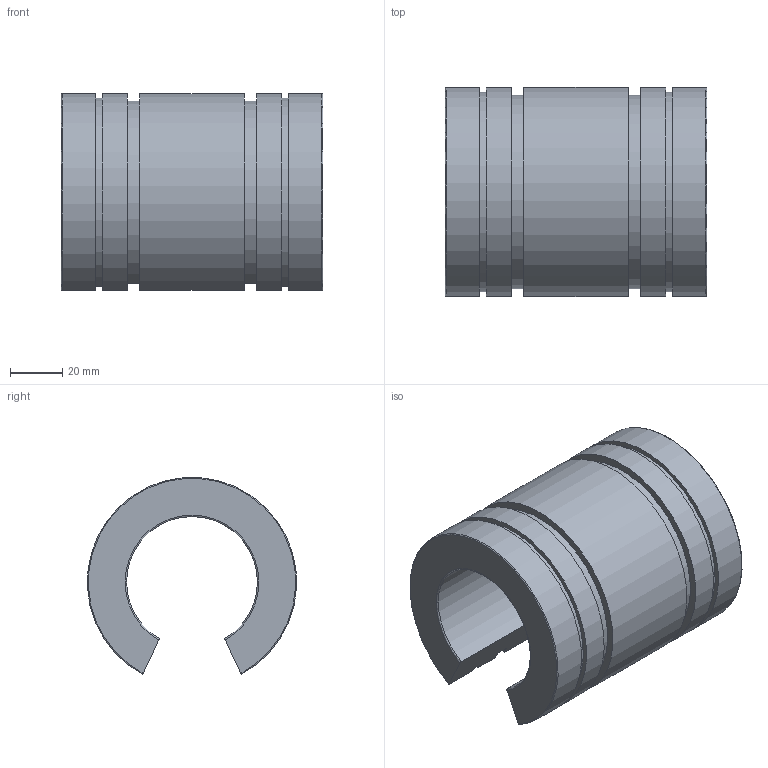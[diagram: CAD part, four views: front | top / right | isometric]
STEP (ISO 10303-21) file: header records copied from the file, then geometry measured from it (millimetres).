
FILE_DESCRIPTION(('STEP AP203'),'1');
FILE_NAME('//192.168.1.1/share/s-4 技術開発/s-4-4_CAD/s-4-4-3_見直し済み/PBC LINEAR修正済み/FJN/FJN_TOP/FJN50.step','2022-03-24T07:42:12',(' '),(' '),'Spatial InterOp 3D',' ',' ');
FILE_SCHEMA(('CONFIG_CONTROL_DESIGN'));
Length unit declared in the file: millimetre
Products named in the file (1): 1
Bounding box: 100 x 79.88 x 75.13 mm (x, y, z)
Volume: 249598.4 mm3; surface area: 45863.7 mm2
Topology: 1 solids, 1 shells, 26 faces, 72 edges, 48 vertices
Faces by surface type: plane 12, cylinder 10, torus 4
Entity records: 908 total; most frequent: CARTESIAN_POINT 187, ORIENTED_EDGE 144, DIRECTION 142, EDGE_CURVE 72, AXIS2_PLACEMENT_3D 51, VERTEX_POINT 48, LINE 40, VECTOR 40
